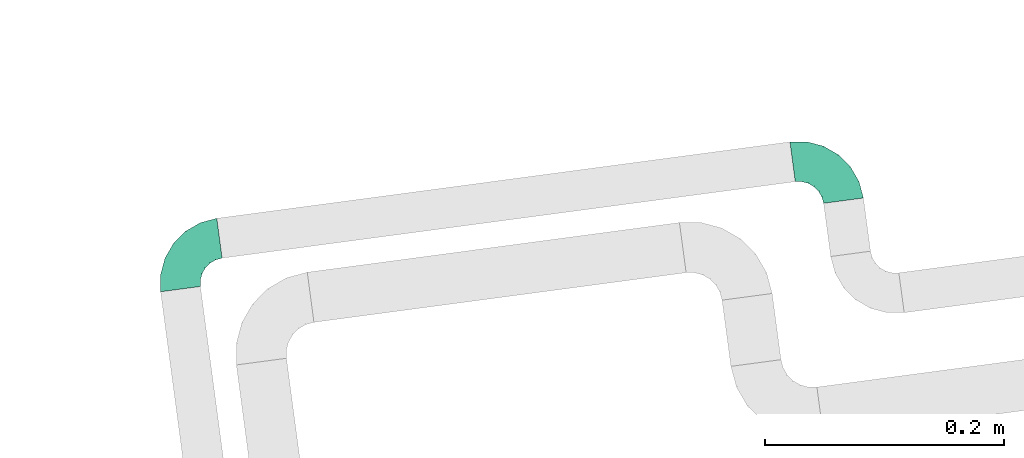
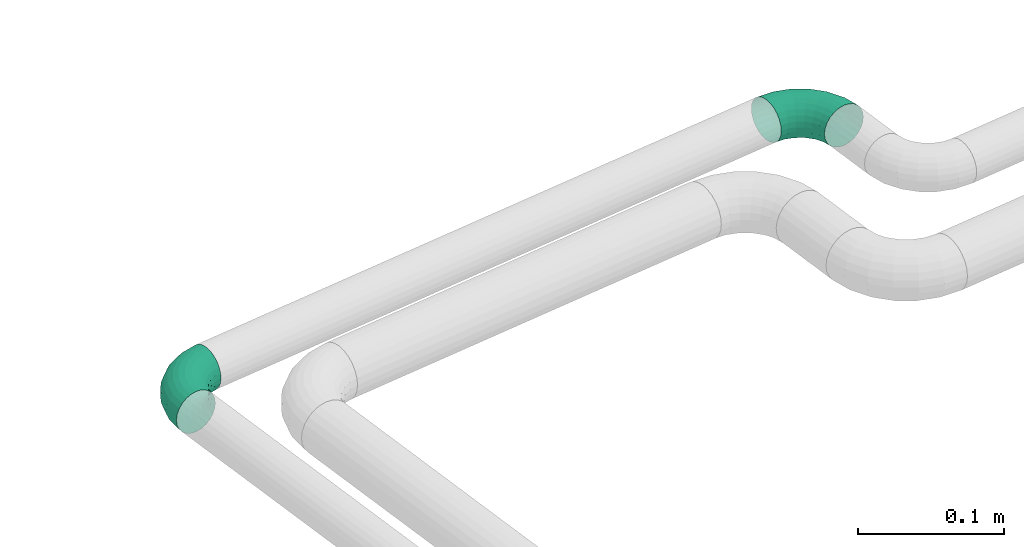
# One storey, part 359 of 374: 2 flow segments.
"""IFC2X3 building model written with IfcOpenShell, lengths in metres."""

import ifcopenshell
import ifcopenshell.guid

model = None  # the IFC model being written
_history = None  # IfcOwnerHistory: only IFC2X3 demands one
_inside = {}  # id of a spatial element -> (the spatial element, [elements in it])
_under = {}  # id of a project, library or spatial element -> (it, [spatial elements below it])
_declared = {}  # id of a project -> (the project, [libraries it declares])
_typed = {}  # id of a type object -> (the type object, [elements of that type])
_made_of = {}  # id of a material, layer set ... -> (it, [elements and type objects made of it])


def new_model(schema):
    """Start an empty IFC model of exactly this schema.

    Asked for "IFC4X3", IfcOpenShell would pick the latest addendum, in which some entities
    have other attributes; the version numbers below select the first issue.
    IFC2X3 requires an IfcOwnerHistory on every rooted entity: one is made here for all.
    """
    global model, _history
    if schema == "IFC4X3":
        model = ifcopenshell.file(schema_version=(4, 3, 0, 0))
    else:
        model = ifcopenshell.file(schema=schema)
    _inside.clear()
    _under.clear()
    _declared.clear()
    _typed.clear()
    _made_of.clear()
    _history = None
    if model.schema == "IFC2X3":
        org = make("IfcOrganization", Name="unknown")
        user = make(
            "IfcPersonAndOrganization",
            ThePerson=make("IfcPerson", FamilyName="unknown"),
            TheOrganization=org,
        )
        app = make(
            "IfcApplication",
            ApplicationDeveloper=org,
            Version="unknown",
            ApplicationFullName="unknown",
            ApplicationIdentifier="unknown",
        )
        _history = make(
            "IfcOwnerHistory",
            OwningUser=user,
            OwningApplication=app,
            ChangeAction="ADDED",
            CreationDate=0,
        )
    return model


def make(cls, **values):
    """One entity of the class cls with the attributes given. An attribute that is None is left unset."""
    return model.create_entity(
        cls, **{name: value for name, value in values.items() if value is not None}
    )


def rooted(cls, **values):
    """An entity with a GlobalId (a new one), such as an element, a storey or a relation."""
    return make(cls, GlobalId=ifcopenshell.guid.new(), OwnerHistory=_history, **values)


def si_unit(unit_type, name, prefix=None):
    """IfcSIUnit, for example si_unit("LENGTHUNIT", "METRE", prefix="MILLI")."""
    return make("IfcSIUnit", UnitType=unit_type, Prefix=prefix, Name=name)


def assignment(units):
    """IfcUnitAssignment: the units of a project."""
    return None if units is None else make("IfcUnitAssignment", Units=units)


def point(xyz):
    """IfcCartesianPoint."""
    return None if xyz is None else make("IfcCartesianPoint", Coordinates=xyz)


def direction(xyz):
    """IfcDirection."""
    return None if xyz is None else make("IfcDirection", DirectionRatios=xyz)


def frame(location, z_axis=None, x_axis=None):
    """IfcAxis2Placement3D, a coordinate frame: its origin and axes. An axis left out is left unset."""
    return make(
        "IfcAxis2Placement3D",
        Location=point(location),
        Axis=direction(z_axis),
        RefDirection=direction(x_axis),
    )


def origin():
    """The frame at (0, 0, 0) with its axes left unset."""
    return frame((0.0, 0.0, 0.0))


def place(relative_to, where):
    """IfcLocalPlacement: puts the frame where relative to a parent placement (None: the world)."""
    return make(
        "IfcLocalPlacement", PlacementRelTo=relative_to, RelativePlacement=where
    )


def context(
    kind, dimensions, precision=None, world=None, true_north=None, identifier=None
):
    """IfcGeometricRepresentationContext, for example the 3D "Model" context."""
    return make(
        "IfcGeometricRepresentationContext",
        ContextIdentifier=identifier,
        ContextType=kind,
        CoordinateSpaceDimension=dimensions,
        Precision=precision,
        WorldCoordinateSystem=world,
        TrueNorth=true_north,
    )


def subcontext(parent, identifier, kind, view, scale=None):
    """IfcGeometricRepresentationSubContext, for example "Body" below "Model"."""
    return make(
        "IfcGeometricRepresentationSubContext",
        ContextIdentifier=identifier,
        ContextType=kind,
        ParentContext=parent,
        TargetScale=scale,
        TargetView=view,
    )


def project(units=None, contexts=None):
    """IfcProject with its units and contexts."""
    return rooted(
        "IfcProject",
        Name="project",
        RepresentationContexts=contexts,
        UnitsInContext=assignment(units),
    )


def spatial(cls, under=None, at=None, **own):
    """A site, building, storey or space (cls), placed at a placement, below another one or the project."""
    s = rooted(cls, ObjectPlacement=at, **own)
    if under is not None:
        _under.setdefault(under.id(), (under, []))[1].append(s)
    return s


def faces_of(points, faces, orient=None, outer=None):
    """IfcFace entities. A face is a list of loops; a loop is a list of indices into points, from 0.

    orient and outer hold one flag for each loop. By default every Orientation is true, the
    first loop of a face is its IfcFaceOuterBound and the others are IfcFaceBound.
    """
    made = []
    for i, loops in enumerate(faces):
        bounds = []
        for j, loop in enumerate(loops):
            is_outer = j == 0 if outer is None else outer[i][j]
            bounds.append(
                make(
                    "IfcFaceOuterBound" if is_outer else "IfcFaceBound",
                    Bound=make("IfcPolyLoop", Polygon=[points[k] for k in loop]),
                    Orientation=True if orient is None else orient[i][j],
                )
            )
        made.append(make("IfcFace", Bounds=bounds))
    return made


def open_shell(faces, orient=None, outer=None):
    """The faces of one IfcOpenShell. surface_model builds it on its shared points."""
    return ("IfcOpenShell", faces, orient, outer)


def surface_model(cls, points, shells):
    """IfcFaceBasedSurfaceModel or IfcShellBasedSurfaceModel (cls): surfaces that need not close."""
    shared = [point(p) for p in points]
    made = [make(c, CfsFaces=faces_of(shared, fs, o, b)) for c, fs, o, b in shells]
    if cls == "IfcFaceBasedSurfaceModel":
        return make(cls, FbsmFaces=made)
    return make(cls, SbsmBoundary=made)


def shape(context_of_items, identifier, shape_type, items):
    """IfcShapeRepresentation: the items that make up one representation, for example the "Body"."""
    return make(
        "IfcShapeRepresentation",
        ContextOfItems=context_of_items,
        RepresentationIdentifier=identifier,
        RepresentationType=shape_type,
        Items=items,
    )


def source(mapping_origin, context_of_items, identifier, shape_type, items):
    """IfcRepresentationMap: a shape defined once, which mapped items show again and again."""
    return make(
        "IfcRepresentationMap",
        MappingOrigin=mapping_origin,
        MappedRepresentation=shape(context_of_items, identifier, shape_type, items),
    )


def transform(
    local_origin,
    x_axis=None,
    y_axis=None,
    z_axis=None,
    scale=None,
    scale2=None,
    scale3=None,
    uniform=True,
):
    """IfcCartesianTransformationOperator3D, or its non-uniform kind. x_axis, y_axis, z_axis: its Axis1, 2, 3."""
    if uniform:
        return make(
            "IfcCartesianTransformationOperator3D",
            Axis1=direction(x_axis),
            Axis2=direction(y_axis),
            LocalOrigin=point(local_origin),
            Scale=scale,
            Axis3=direction(z_axis),
        )
    return make(
        "IfcCartesianTransformationOperator3DnonUniform",
        Axis1=direction(x_axis),
        Axis2=direction(y_axis),
        LocalOrigin=point(local_origin),
        Scale=scale,
        Axis3=direction(z_axis),
        Scale2=scale2,
        Scale3=scale3,
    )


def mapped(mapping_source, mapping_target):
    """IfcMappedItem: shows the shape of a source again, moved by a transform."""
    return make(
        "IfcMappedItem", MappingSource=mapping_source, MappingTarget=mapping_target
    )


def made_of(thing, what):
    """Note that an element or type object is made of a material, layer set ...; save() writes the relation."""
    if what is not None:
        _made_of.setdefault(what.id(), (what, []))[1].append(thing)
    return thing


def element(
    cls,
    number,
    at=None,
    inside=None,
    cuts=None,
    type_object=None,
    material=None,
    context=None,
    identifier="Body",
    shape_type=None,
    held_by="IfcProductDefinitionShape",
    body=None,
    shapes=None,
    **own,
):
    """One element of the class cls, such as IfcWall. Its Tag is "e" and its number.

    at: its placement. inside: the storey or other place that contains it. cuts: it is an
    opening in that element (IfcRelVoidsElement). A single representation is given by context,
    identifier, shape_type and body (its items); several are given by shapes. held_by: the class
    of the entity that holds the representations. save() writes the other relations.
    """
    e = rooted(cls, Tag="e%d" % number, ObjectPlacement=at, **own)
    if body is not None:
        shapes = [shape(context, identifier, shape_type, body)]
    if shapes is not None:
        e.Representation = make(held_by, Representations=shapes)
    if inside is not None:
        _inside.setdefault(inside.id(), (inside, []))[1].append(e)
    if cuts is not None:
        rooted(
            "IfcRelVoidsElement", RelatingBuildingElement=cuts, RelatedOpeningElement=e
        )
    if type_object is not None:
        _typed.setdefault(type_object.id(), (type_object, []))[1].append(e)
    return made_of(e, material)


def aggregate(whole, parts):
    """IfcRelAggregates: a whole, such as a stair, and the parts it consists of."""
    return rooted("IfcRelAggregates", RelatingObject=whole, RelatedObjects=parts)


def save(model, path):
    """Write the relations noted so far, then the file.

    IfcRelAggregates (storeys below a building ...), IfcRelContainedInSpatialStructure (elements
    in a storey), IfcRelDefinesByType, IfcRelAssociatesMaterial and IfcRelDeclares: one each for
    every whole, place, type object, material and project.
    """
    for whole, parts in _under.values():
        aggregate(whole, parts)
    for where, things in _inside.values():
        rooted(
            "IfcRelContainedInSpatialStructure",
            RelatedElements=things,
            RelatingStructure=where,
        )
    for kind, things in _typed.values():
        rooted("IfcRelDefinesByType", RelatedObjects=things, RelatingType=kind)
    for what, things in _made_of.values():
        rooted("IfcRelAssociatesMaterial", RelatedObjects=things, RelatingMaterial=what)
    for by, libraries in _declared.values():
        rooted("IfcRelDeclares", RelatingContext=by, RelatedDefinitions=libraries)
    model.write(path)


model = new_model("IFC2X3")

# Units and contexts
model_context = context("Model", 3, precision=1e-05, world=origin(), true_north=direction((-0.4480736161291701, 0.8939966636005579)))
body_context = subcontext(model_context, "Body", "Model", "MODEL_VIEW")
ifc_project = project(units=[si_unit("LENGTHUNIT", "METRE"), si_unit("AREAUNIT", "SQUARE_METRE"), si_unit("VOLUMEUNIT", "CUBIC_METRE"), si_unit("PLANEANGLEUNIT", "RADIAN"), si_unit("THERMODYNAMICTEMPERATUREUNIT", "KELVIN"), si_unit("MASSUNIT", "GRAM", prefix="KILO"), si_unit("TIMEUNIT", "SECOND")], contexts=[model_context])

# Site, building, storey
site_placement = place(None, origin())
site = spatial("IfcSite", under=ifc_project, at=site_placement, Name="Site 1", CompositionType="ELEMENT")
building_placement = place(site_placement, origin())
building = spatial("IfcBuilding", under=site, at=building_placement, Name="Undefined", CompositionType="ELEMENT")
storey_placement = place(building_placement, origin())
storey = spatial("IfcBuildingStorey", under=building, at=storey_placement, Name="Rez de chauss\x8ee", CompositionType="ELEMENT", Elevation=0.0)

# Flow segments
shared_shape_1 = source(origin(), body_context, "Body", "SurfaceModel", [
    surface_model("IfcFaceBasedSurfaceModel", [(0.014318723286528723, 0.0, 8.8817842e-16), (0.01424378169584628, 0.004398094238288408, 0.0), (7.494159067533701e-05, 0.004398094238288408, 8.8817842e-16), (0.0, 0.0, 0.0), (-0.013611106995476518, 0.004872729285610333, -0.0036363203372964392), (-0.01383082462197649, 0.000479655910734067, -0.003674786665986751), (-0.02588168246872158, 0.005789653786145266, -0.010661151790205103), (-0.026231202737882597, 0.0014062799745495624, -0.010773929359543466), (-0.03590056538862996, 0.007086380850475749, -0.02059576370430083), (-0.036356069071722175, 0.0027167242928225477, -0.020813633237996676), (-0.04298498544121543, 0.008674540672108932, -0.03276312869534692), (-0.0435154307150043, 0.0043216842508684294, -0.03310970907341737), (-0.046652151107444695, 0.010445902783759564, -0.04633406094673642), (-0.04722138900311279, 0.006111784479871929, -0.04682419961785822), (0.01402406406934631, 0.008643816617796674, -0.00112889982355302), (0.0002946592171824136, 0.00864381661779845, -0.001128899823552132), (-0.01296692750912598, 0.009103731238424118, -0.00465244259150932), (-0.02485694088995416, 0.009992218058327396, -0.011459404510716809), (-0.03456509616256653, 0.011248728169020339, -0.021085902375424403), (-0.041429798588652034, 0.012787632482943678, -0.03287590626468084), (-0.04498323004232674, 0.014504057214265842, -0.04602594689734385), (0.013674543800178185, 0.012447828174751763, -0.0033097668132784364), (0.0006441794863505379, 0.012447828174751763, -0.003309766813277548), (-0.011942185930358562, 0.012884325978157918, -0.006653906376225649), (-0.023226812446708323, 0.013727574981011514, -0.01311428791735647), (-0.032440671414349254, 0.014920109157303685, -0.022250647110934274), (-0.038955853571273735, 0.016380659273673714, -0.03344035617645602), (-0.04232836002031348, 0.01800969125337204, -0.04592085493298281), (0.013219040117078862, 0.01555089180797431, -0.006393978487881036), (0.0010996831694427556, 0.015550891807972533, -0.006393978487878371), (-0.010606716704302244, 0.015956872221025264, -0.009504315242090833), (-0.021102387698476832, 0.016741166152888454, -0.01551302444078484), (-0.029672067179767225, 0.01785032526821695, -0.024010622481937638), (-0.035731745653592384, 0.01920876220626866, -0.03441801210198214), (-0.038868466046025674, 0.02072390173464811, -0.04602594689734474), (0.012688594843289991, 0.01774153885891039, -0.010171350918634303), (0.0016301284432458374, 0.01774153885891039, -0.010171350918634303), (-0.009051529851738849, 0.018111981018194, -0.013009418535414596), (-0.01862844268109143, 0.01882762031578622, -0.018492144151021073), (-0.026447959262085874, 0.019839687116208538, -0.02624588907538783), (-0.03197719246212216, 0.021079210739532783, -0.03574224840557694), (-0.034839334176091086, 0.022461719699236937, -0.04633406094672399), (0.012119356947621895, 0.018870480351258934, -0.014384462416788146), (0.0021993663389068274, 0.018870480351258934, -0.014384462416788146), (-0.007382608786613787, 0.019202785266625, -0.016930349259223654), (-0.015973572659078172, 0.019844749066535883, -0.021848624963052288), (-0.022988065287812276, 0.020752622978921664, -0.02880411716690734), (-0.027948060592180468, 0.021864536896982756, -0.03732282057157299), (-0.030515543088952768, 0.023104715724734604, -0.04682419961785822), (0.0115501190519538, 0.018860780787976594, -0.01874619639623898), (0.002768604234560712, 0.018860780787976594, -0.01874619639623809), (-0.005713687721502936, 0.019154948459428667, -0.020999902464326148), (-0.013318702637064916, 0.01972323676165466, -0.025353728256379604), (-0.019528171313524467, 0.02052691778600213, -0.03151096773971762), (-0.023918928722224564, 0.021511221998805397, -0.03905201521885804), (-0.02619175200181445, 0.02260907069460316, -0.04746296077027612), (0.011019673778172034, 0.01771310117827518, -0.022959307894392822), (0.0032990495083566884, 0.01771310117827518, -0.022959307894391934), (-0.004158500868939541, 0.017971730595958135, -0.0249407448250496), (-0.010844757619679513, 0.018471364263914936, -0.028768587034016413), (-0.01630406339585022, 0.019177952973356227, -0.03418197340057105), (-0.020164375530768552, 0.0200433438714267, -0.04081199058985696), (-0.022162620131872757, 0.02100856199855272, -0.04820681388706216), (0.010564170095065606, 0.015505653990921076, -0.02673668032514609), (0.0037545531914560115, 0.015505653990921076, -0.0267366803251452), (-0.002823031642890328, 0.01573376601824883, -0.028484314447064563), (-0.008720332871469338, 0.016174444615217, -0.03186048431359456), (-0.01353545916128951, 0.016797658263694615, -0.036635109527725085), (-0.016940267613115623, 0.017560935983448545, -0.042482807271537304), (-0.018702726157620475, 0.01841226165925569, -0.04900506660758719), (0.010214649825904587, 0.012388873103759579, -0.029820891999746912), (0.004104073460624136, 0.012388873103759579, -0.029820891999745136), (-0.0017982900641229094, 0.012593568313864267, -0.03138912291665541), (-0.007090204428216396, 0.012989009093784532, -0.03441871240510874), (-0.011411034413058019, 0.013548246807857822, -0.0387031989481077), (-0.014466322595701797, 0.014233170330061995, -0.04395060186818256), (-0.01604785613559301, 0.014997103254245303, -0.0498033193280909), (0.009994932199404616, 0.008575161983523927, -0.03200175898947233), (0.004323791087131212, 0.00857516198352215, -0.03200175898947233), (-0.001154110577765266, 0.00876513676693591, -0.03345721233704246), (-0.006065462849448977, 0.009132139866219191, -0.03626893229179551), (-0.0100755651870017, 0.009651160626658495, -0.04024530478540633), (-0.012911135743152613, 0.010286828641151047, -0.04511534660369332), (-0.014378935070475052, 0.010995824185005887, -0.05054717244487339), (0.009919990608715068, 0.004324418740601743, -0.03313065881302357), (0.004398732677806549, 0.004324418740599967, -0.03313065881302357), (-0.0009343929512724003, 0.004509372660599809, -0.03454764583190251), (-0.005715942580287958, 0.004866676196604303, -0.03728505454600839), (-0.009620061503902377, 0.005371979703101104, -0.041156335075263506), (-0.012380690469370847, 0.005990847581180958, -0.04589766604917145), (-0.013809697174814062, 0.006681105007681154, -0.05118593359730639), (0.009994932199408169, -7.367549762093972e-05, -0.033130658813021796), (0.004323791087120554, -7.367549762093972e-05, -0.03313065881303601), (-0.0011541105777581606, 0.00011629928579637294, -0.03458611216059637), (-0.006065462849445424, 0.0004833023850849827, -0.037397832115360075), (-0.010075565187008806, 0.0010023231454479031, -0.04137420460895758), (-0.012911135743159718, 0.001637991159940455, -0.04624424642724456), (-0.014378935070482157, 0.002346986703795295, -0.05167607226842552), (0.010214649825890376, -0.004319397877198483, -0.03200175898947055), (0.00410407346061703, -0.0043193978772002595, -0.03200175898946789), (-0.0017982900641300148, -0.004114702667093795, -0.03356998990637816), (-0.007090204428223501, -0.0037192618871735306, -0.036599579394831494), (-0.011411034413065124, -0.00316002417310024, -0.04088406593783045), (-0.014466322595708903, -0.002475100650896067, -0.04613146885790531), (-0.016047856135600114, -0.0017111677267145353, -0.05198418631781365), (0.0105641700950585, -0.008123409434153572, -0.029820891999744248), (0.003754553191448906, -0.008123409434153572, -0.02982089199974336), (-0.0028230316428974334, -0.007895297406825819, -0.03156852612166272), (-0.008720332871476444, -0.007454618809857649, -0.03494469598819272), (-0.013535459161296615, -0.006831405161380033, -0.03971932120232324), (-0.016940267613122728, -0.006068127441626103, -0.04556701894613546), (-0.01870272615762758, -0.005216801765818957, -0.05208927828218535), (0.011019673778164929, -0.011226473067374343, -0.026736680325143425), (0.003299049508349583, -0.011226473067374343, -0.026736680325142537), (-0.004158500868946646, -0.010967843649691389, -0.028718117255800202), (-0.010844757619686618, -0.010468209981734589, -0.032545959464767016), (-0.016304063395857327, -0.009761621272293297, -0.037959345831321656), (-0.020164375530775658, -0.008896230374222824, -0.044589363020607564), (-0.022162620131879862, -0.007931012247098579, -0.051984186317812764), (0.011550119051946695, -0.013417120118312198, -0.02295930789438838), (0.0027686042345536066, -0.013417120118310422, -0.022959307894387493), (-0.005713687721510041, -0.013122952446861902, -0.02521301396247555), (-0.013318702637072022, -0.012554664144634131, -0.029566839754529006), (-0.019528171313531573, -0.011750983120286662, -0.035724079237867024), (-0.02391892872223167, -0.010766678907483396, -0.04326512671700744), (-0.026191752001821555, -0.009668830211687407, -0.05167607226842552), (0.01211935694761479, -0.014546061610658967, -0.018746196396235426), (0.002199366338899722, -0.014546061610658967, -0.018746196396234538), (-0.007382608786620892, -0.0142137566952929, -0.021292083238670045), (-0.015973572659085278, -0.013571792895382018, -0.02621035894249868), (-0.02298806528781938, -0.012663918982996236, -0.03316585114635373), (-0.027948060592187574, -0.011552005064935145, -0.04168455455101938), (-0.030515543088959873, -0.010311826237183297, -0.05118593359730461), (0.012688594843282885, -0.014536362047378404, -0.014384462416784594), (0.001630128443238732, -0.014536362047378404, -0.014384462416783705), (-0.009051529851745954, -0.014165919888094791, -0.017222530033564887), (-0.018628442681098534, -0.013450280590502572, -0.022705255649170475), (-0.02644795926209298, -0.012438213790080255, -0.03045900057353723), (-0.03197719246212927, -0.011198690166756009, -0.03995535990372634), (-0.03483933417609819, -0.009816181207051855, -0.05054717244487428), (0.013219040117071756, -0.013388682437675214, -0.010171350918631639), (0.0010996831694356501, -0.01338868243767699, -0.010171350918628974), (-0.010606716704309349, -0.01298270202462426, -0.013281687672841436), (-0.021102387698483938, -0.01219840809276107, -0.019290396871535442), (-0.02967206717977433, -0.011089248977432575, -0.02778799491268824), (-0.03573174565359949, -0.009730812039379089, -0.038195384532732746), (-0.03886846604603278, -0.008215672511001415, -0.04980331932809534), (0.01367454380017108, -0.011181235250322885, -0.006393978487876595), (0.0006441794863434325, -0.011181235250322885, -0.006393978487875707), (-0.011942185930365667, -0.01074473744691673, -0.009738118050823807), (-0.023226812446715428, -0.009901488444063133, -0.01619849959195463), (-0.03244067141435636, -0.008708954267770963, -0.02533485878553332), (-0.03895585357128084, -0.007248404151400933, -0.03652456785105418), (-0.04232836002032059, -0.005619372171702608, -0.04900506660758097), (0.014024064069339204, -0.008064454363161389, -0.003309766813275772), (0.0002946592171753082, -0.008064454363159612, -0.0033097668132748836), (-0.012966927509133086, -0.0076045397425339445, -0.006833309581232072), (-0.024856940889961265, -0.0067160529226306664, -0.01364027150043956), (-0.03456509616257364, -0.005459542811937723, -0.023266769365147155), (-0.04142979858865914, -0.003920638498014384, -0.03505677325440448), (-0.044983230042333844, -0.00220421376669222, -0.0482068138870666), (0.014243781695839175, -0.004250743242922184, -0.0011288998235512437), (7.494159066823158e-05, -0.004250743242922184, -0.0011288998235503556), (-0.013611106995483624, -0.0037761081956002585, -0.004765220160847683), (-0.025881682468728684, -0.002859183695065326, -0.011790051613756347), (-0.03590056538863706, -0.001562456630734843, -0.021724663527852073), (-0.042984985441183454, 2.5703190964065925e-05, -0.03389202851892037), (-0.0466521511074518, 0.0017970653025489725, -0.047462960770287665)], [open_shell([[[0, 1, 2, 3]], [[3, 2, 4, 5]], [[5, 4, 6, 7]], [[7, 6, 8, 9]], [[9, 8, 10, 11]], [[11, 10, 12, 13]], [[1, 14, 15, 2]], [[2, 15, 16, 4]], [[4, 16, 17, 6]], [[6, 17, 18, 8]], [[8, 18, 19, 10]], [[10, 19, 20, 12]], [[14, 21, 22, 15]], [[15, 22, 23, 16]], [[16, 23, 24, 17]], [[17, 24, 25, 18]], [[18, 25, 26, 19]], [[19, 26, 27, 20]], [[21, 28, 29, 22]], [[22, 29, 30, 23]], [[23, 30, 31, 24]], [[24, 31, 32, 25]], [[25, 32, 33, 26]], [[26, 33, 34, 27]], [[28, 35, 36, 29]], [[29, 36, 37, 30]], [[30, 37, 38, 31]], [[31, 38, 39, 32]], [[32, 39, 40, 33]], [[33, 40, 41, 34]], [[35, 42, 43, 36]], [[36, 43, 44, 37]], [[37, 44, 45, 38]], [[38, 45, 46, 39]], [[39, 46, 47, 40]], [[40, 47, 48, 41]], [[42, 49, 50, 43]], [[43, 50, 51, 44]], [[44, 51, 52, 45]], [[45, 52, 53, 46]], [[46, 53, 54, 47]], [[47, 54, 55, 48]], [[49, 56, 57, 50]], [[50, 57, 58, 51]], [[51, 58, 59, 52]], [[52, 59, 60, 53]], [[53, 60, 61, 54]], [[54, 61, 62, 55]], [[56, 63, 64, 57]], [[57, 64, 65, 58]], [[58, 65, 66, 59]], [[59, 66, 67, 60]], [[60, 67, 68, 61]], [[61, 68, 69, 62]], [[63, 70, 71, 64]], [[64, 71, 72, 65]], [[65, 72, 73, 66]], [[66, 73, 74, 67]], [[67, 74, 75, 68]], [[68, 75, 76, 69]], [[70, 77, 78, 71]], [[71, 78, 79, 72]], [[72, 79, 80, 73]], [[73, 80, 81, 74]], [[74, 81, 82, 75]], [[75, 82, 83, 76]], [[77, 84, 85, 78]], [[78, 85, 86, 79]], [[79, 86, 87, 80]], [[80, 87, 88, 81]], [[81, 88, 89, 82]], [[82, 89, 90, 83]], [[84, 91, 92, 85]], [[85, 92, 93, 86]], [[86, 93, 94, 87]], [[87, 94, 95, 88]], [[88, 95, 96, 89]], [[89, 96, 97, 90]], [[91, 98, 99, 92]], [[92, 99, 100, 93]], [[93, 100, 101, 94]], [[94, 101, 102, 95]], [[95, 102, 103, 96]], [[96, 103, 104, 97]], [[98, 105, 106, 99]], [[99, 106, 107, 100]], [[100, 107, 108, 101]], [[101, 108, 109, 102]], [[102, 109, 110, 103]], [[103, 110, 111, 104]], [[105, 112, 113, 106]], [[106, 113, 114, 107]], [[107, 114, 115, 108]], [[108, 115, 116, 109]], [[109, 116, 117, 110]], [[110, 117, 118, 111]], [[112, 119, 120, 113]], [[113, 120, 121, 114]], [[114, 121, 122, 115]], [[115, 122, 123, 116]], [[116, 123, 124, 117]], [[117, 124, 125, 118]], [[119, 126, 127, 120]], [[120, 127, 128, 121]], [[121, 128, 129, 122]], [[122, 129, 130, 123]], [[123, 130, 131, 124]], [[124, 131, 132, 125]], [[126, 133, 134, 127]], [[127, 134, 135, 128]], [[128, 135, 136, 129]], [[129, 136, 137, 130]], [[130, 137, 138, 131]], [[131, 138, 139, 132]], [[133, 140, 141, 134]], [[134, 141, 142, 135]], [[135, 142, 143, 136]], [[136, 143, 144, 137]], [[137, 144, 145, 138]], [[138, 145, 146, 139]], [[140, 147, 148, 141]], [[141, 148, 149, 142]], [[142, 149, 150, 143]], [[143, 150, 151, 144]], [[144, 151, 152, 145]], [[145, 152, 153, 146]], [[147, 154, 155, 148]], [[148, 155, 156, 149]], [[149, 156, 157, 150]], [[150, 157, 158, 151]], [[151, 158, 159, 152]], [[152, 159, 160, 153]], [[154, 161, 162, 155]], [[155, 162, 163, 156]], [[156, 163, 164, 157]], [[157, 164, 165, 158]], [[158, 165, 166, 159]], [[159, 166, 167, 160]], [[161, 0, 3, 162]], [[162, 3, 5, 163]], [[163, 5, 7, 164]], [[164, 7, 9, 165]], [[165, 9, 11, 166]], [[166, 11, 13, 167]]])]),
])
flow_segment_1_placement = place(storey_placement, origin())
element("IfcFlowSegment", 1, at=flow_segment_1_placement, inside=storey, Name="Tube coudé", ObjectType="Tube coudé", context=body_context, shape_type="MappedRepresentation", body=[
    mapped(shared_shape_1, transform((63.8984853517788, 20.254435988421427, 4.0051404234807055), x_axis=(0.2605045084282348, -0.9654726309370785, 0.0), y_axis=(-0.12495948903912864, -0.03371665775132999, -0.9915887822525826), z_axis=(0.9573518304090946, 0.2583133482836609, -0.12942830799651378))),
])
shared_shape_2 = source(origin(), body_context, "Body", "SurfaceModel", [
    surface_model("IfcFaceBasedSurfaceModel", [(0.014318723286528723, 0.0, 8.8817842e-16), (0.01424378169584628, 0.004398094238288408, 0.0), (7.494159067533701e-05, 0.004398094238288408, 8.8817842e-16), (0.0, 0.0, 0.0), (-0.013611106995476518, 0.004872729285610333, -0.0036363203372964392), (-0.01383082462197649, 0.000479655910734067, -0.003674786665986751), (-0.02588168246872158, 0.005789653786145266, -0.010661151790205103), (-0.026231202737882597, 0.0014062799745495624, -0.010773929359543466), (-0.03590056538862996, 0.007086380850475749, -0.02059576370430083), (-0.036356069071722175, 0.0027167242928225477, -0.020813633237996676), (-0.04298498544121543, 0.008674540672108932, -0.03276312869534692), (-0.0435154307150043, 0.0043216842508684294, -0.03310970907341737), (-0.046652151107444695, 0.010445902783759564, -0.04633406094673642), (-0.04722138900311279, 0.006111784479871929, -0.04682419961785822), (0.01402406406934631, 0.008643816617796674, -0.00112889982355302), (0.0002946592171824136, 0.00864381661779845, -0.001128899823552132), (-0.01296692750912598, 0.009103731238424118, -0.00465244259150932), (-0.02485694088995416, 0.009992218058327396, -0.011459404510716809), (-0.03456509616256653, 0.011248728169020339, -0.021085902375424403), (-0.041429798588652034, 0.012787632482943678, -0.03287590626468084), (-0.04498323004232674, 0.014504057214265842, -0.04602594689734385), (0.013674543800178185, 0.012447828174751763, -0.0033097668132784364), (0.0006441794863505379, 0.012447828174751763, -0.003309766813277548), (-0.011942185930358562, 0.012884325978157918, -0.006653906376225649), (-0.023226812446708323, 0.013727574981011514, -0.01311428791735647), (-0.032440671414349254, 0.014920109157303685, -0.022250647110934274), (-0.038955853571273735, 0.016380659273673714, -0.03344035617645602), (-0.04232836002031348, 0.01800969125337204, -0.04592085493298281), (0.013219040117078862, 0.01555089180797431, -0.006393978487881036), (0.0010996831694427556, 0.015550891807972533, -0.006393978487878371), (-0.010606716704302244, 0.015956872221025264, -0.009504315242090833), (-0.021102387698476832, 0.016741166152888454, -0.01551302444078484), (-0.029672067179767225, 0.01785032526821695, -0.024010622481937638), (-0.035731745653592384, 0.01920876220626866, -0.03441801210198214), (-0.038868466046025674, 0.02072390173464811, -0.04602594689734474), (0.012688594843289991, 0.01774153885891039, -0.010171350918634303), (0.0016301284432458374, 0.01774153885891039, -0.010171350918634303), (-0.009051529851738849, 0.018111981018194, -0.013009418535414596), (-0.01862844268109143, 0.01882762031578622, -0.018492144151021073), (-0.026447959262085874, 0.019839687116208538, -0.02624588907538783), (-0.03197719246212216, 0.021079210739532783, -0.03574224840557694), (-0.034839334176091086, 0.022461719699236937, -0.04633406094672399), (0.012119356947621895, 0.018870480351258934, -0.014384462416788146), (0.0021993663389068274, 0.018870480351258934, -0.014384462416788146), (-0.007382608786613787, 0.019202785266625, -0.016930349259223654), (-0.015973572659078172, 0.019844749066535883, -0.021848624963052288), (-0.022988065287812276, 0.020752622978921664, -0.02880411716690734), (-0.027948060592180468, 0.021864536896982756, -0.03732282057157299), (-0.030515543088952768, 0.023104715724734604, -0.04682419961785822), (0.0115501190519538, 0.018860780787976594, -0.01874619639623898), (0.002768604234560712, 0.018860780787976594, -0.01874619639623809), (-0.005713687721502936, 0.019154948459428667, -0.020999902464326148), (-0.013318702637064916, 0.01972323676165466, -0.025353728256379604), (-0.019528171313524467, 0.02052691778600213, -0.03151096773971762), (-0.023918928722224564, 0.021511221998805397, -0.03905201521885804), (-0.02619175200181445, 0.02260907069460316, -0.04746296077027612), (0.011019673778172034, 0.01771310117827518, -0.022959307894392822), (0.0032990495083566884, 0.01771310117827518, -0.022959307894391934), (-0.004158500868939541, 0.017971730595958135, -0.0249407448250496), (-0.010844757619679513, 0.018471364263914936, -0.028768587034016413), (-0.01630406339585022, 0.019177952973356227, -0.03418197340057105), (-0.020164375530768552, 0.0200433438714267, -0.04081199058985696), (-0.022162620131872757, 0.02100856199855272, -0.04820681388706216), (0.010564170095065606, 0.015505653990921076, -0.02673668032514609), (0.0037545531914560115, 0.015505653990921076, -0.0267366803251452), (-0.002823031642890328, 0.01573376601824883, -0.028484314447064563), (-0.008720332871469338, 0.016174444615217, -0.03186048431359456), (-0.01353545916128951, 0.016797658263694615, -0.036635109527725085), (-0.016940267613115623, 0.017560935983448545, -0.042482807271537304), (-0.018702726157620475, 0.01841226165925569, -0.04900506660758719), (0.010214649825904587, 0.012388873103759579, -0.029820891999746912), (0.004104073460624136, 0.012388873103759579, -0.029820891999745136), (-0.0017982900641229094, 0.012593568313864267, -0.03138912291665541), (-0.007090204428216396, 0.012989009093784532, -0.03441871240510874), (-0.011411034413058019, 0.013548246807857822, -0.0387031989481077), (-0.014466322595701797, 0.014233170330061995, -0.04395060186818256), (-0.01604785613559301, 0.014997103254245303, -0.0498033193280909), (0.009994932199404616, 0.008575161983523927, -0.03200175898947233), (0.004323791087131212, 0.00857516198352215, -0.03200175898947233), (-0.001154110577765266, 0.00876513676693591, -0.03345721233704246), (-0.006065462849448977, 0.009132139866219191, -0.03626893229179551), (-0.0100755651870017, 0.009651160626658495, -0.04024530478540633), (-0.012911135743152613, 0.010286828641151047, -0.04511534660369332), (-0.014378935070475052, 0.010995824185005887, -0.05054717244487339), (0.009919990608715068, 0.004324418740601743, -0.03313065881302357), (0.004398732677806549, 0.004324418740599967, -0.03313065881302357), (-0.0009343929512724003, 0.004509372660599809, -0.03454764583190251), (-0.005715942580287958, 0.004866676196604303, -0.03728505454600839), (-0.009620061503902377, 0.005371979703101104, -0.041156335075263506), (-0.012380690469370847, 0.005990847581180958, -0.04589766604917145), (-0.013809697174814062, 0.006681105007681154, -0.05118593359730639), (0.009994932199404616, -7.367549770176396e-05, -0.033130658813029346), (0.0043237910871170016, -7.367549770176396e-05, -0.03313065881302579), (-0.0011541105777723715, 0.00011629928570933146, -0.03458611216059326), (-0.0060654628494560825, 0.00048330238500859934, -0.03739783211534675), (-0.010075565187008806, 0.0010023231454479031, -0.04137420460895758), (-0.012911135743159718, 0.001637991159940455, -0.04624424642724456), (-0.014378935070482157, 0.002346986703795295, -0.05167607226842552), (0.010214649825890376, -0.004319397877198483, -0.03200175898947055), (0.00410407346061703, -0.0043193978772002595, -0.03200175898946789), (-0.0017982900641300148, -0.004114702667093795, -0.03356998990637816), (-0.007090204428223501, -0.0037192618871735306, -0.036599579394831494), (-0.011411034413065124, -0.00316002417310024, -0.04088406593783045), (-0.014466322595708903, -0.002475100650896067, -0.04613146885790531), (-0.016047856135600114, -0.0017111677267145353, -0.05198418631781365), (0.0105641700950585, -0.008123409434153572, -0.029820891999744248), (0.003754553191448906, -0.008123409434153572, -0.02982089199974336), (-0.0028230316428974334, -0.007895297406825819, -0.03156852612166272), (-0.008720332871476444, -0.007454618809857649, -0.03494469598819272), (-0.013535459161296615, -0.006831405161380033, -0.03971932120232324), (-0.016940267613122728, -0.006068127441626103, -0.04556701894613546), (-0.01870272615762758, -0.005216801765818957, -0.05208927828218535), (0.011019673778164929, -0.011226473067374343, -0.026736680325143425), (0.003299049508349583, -0.011226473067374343, -0.026736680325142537), (-0.004158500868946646, -0.010967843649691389, -0.028718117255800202), (-0.010844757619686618, -0.010468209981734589, -0.032545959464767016), (-0.016304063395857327, -0.009761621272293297, -0.037959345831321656), (-0.020164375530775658, -0.008896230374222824, -0.044589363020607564), (-0.022162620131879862, -0.007931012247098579, -0.051984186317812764), (0.011550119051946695, -0.013417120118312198, -0.02295930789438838), (0.0027686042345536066, -0.013417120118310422, -0.022959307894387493), (-0.005713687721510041, -0.013122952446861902, -0.02521301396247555), (-0.013318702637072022, -0.012554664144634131, -0.029566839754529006), (-0.019528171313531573, -0.011750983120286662, -0.035724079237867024), (-0.02391892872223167, -0.010766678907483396, -0.04326512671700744), (-0.026191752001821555, -0.009668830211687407, -0.05167607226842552), (0.01211935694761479, -0.014546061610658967, -0.018746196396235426), (0.002199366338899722, -0.014546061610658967, -0.018746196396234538), (-0.007382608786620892, -0.0142137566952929, -0.021292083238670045), (-0.015973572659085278, -0.013571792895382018, -0.02621035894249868), (-0.02298806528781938, -0.012663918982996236, -0.03316585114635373), (-0.027948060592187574, -0.011552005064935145, -0.04168455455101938), (-0.030515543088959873, -0.010311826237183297, -0.05118593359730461), (0.012688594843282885, -0.014536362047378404, -0.014384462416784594), (0.001630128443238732, -0.014536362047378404, -0.014384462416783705), (-0.009051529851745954, -0.014165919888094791, -0.017222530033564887), (-0.018628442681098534, -0.013450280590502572, -0.022705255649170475), (-0.02644795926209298, -0.012438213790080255, -0.03045900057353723), (-0.03197719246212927, -0.011198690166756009, -0.03995535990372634), (-0.03483933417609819, -0.009816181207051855, -0.05054717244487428), (0.013219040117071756, -0.013388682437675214, -0.010171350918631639), (0.0010996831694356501, -0.01338868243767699, -0.010171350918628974), (-0.010606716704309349, -0.01298270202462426, -0.013281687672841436), (-0.021102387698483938, -0.01219840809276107, -0.019290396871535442), (-0.02967206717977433, -0.011089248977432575, -0.02778799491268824), (-0.03573174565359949, -0.009730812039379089, -0.038195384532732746), (-0.03886846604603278, -0.008215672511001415, -0.04980331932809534), (0.01367454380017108, -0.011181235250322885, -0.006393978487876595), (0.0006441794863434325, -0.011181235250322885, -0.006393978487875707), (-0.011942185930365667, -0.01074473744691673, -0.009738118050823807), (-0.023226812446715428, -0.009901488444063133, -0.01619849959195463), (-0.03244067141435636, -0.008708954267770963, -0.02533485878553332), (-0.03895585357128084, -0.007248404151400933, -0.03652456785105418), (-0.04232836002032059, -0.005619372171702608, -0.04900506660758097), (0.014024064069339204, -0.008064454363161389, -0.003309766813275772), (0.0002946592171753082, -0.008064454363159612, -0.0033097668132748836), (-0.012966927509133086, -0.0076045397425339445, -0.006833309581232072), (-0.024856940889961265, -0.0067160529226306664, -0.01364027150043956), (-0.03456509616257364, -0.005459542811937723, -0.023266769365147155), (-0.04142979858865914, -0.003920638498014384, -0.03505677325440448), (-0.044983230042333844, -0.00220421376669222, -0.0482068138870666), (0.014243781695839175, -0.004250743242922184, -0.0011288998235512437), (7.494159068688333e-05, -0.004250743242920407, -0.0011288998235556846), (-0.013611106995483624, -0.0037761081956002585, -0.004765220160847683), (-0.025881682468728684, -0.002859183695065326, -0.011790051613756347), (-0.03590056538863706, -0.001562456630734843, -0.021724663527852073), (-0.04298498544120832, 2.5703190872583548e-05, -0.033892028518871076), (-0.0466521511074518, 0.0017970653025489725, -0.047462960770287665), (7.494159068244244e-05, -0.004250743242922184, -0.0011288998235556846)], [open_shell([[[0, 1, 2, 3]], [[3, 2, 4, 5]], [[5, 4, 6, 7]], [[7, 6, 8, 9]], [[9, 8, 10, 11]], [[11, 10, 12, 13]], [[1, 14, 15, 2]], [[2, 15, 16, 4]], [[4, 16, 17, 6]], [[6, 17, 18, 8]], [[8, 18, 19, 10]], [[10, 19, 20, 12]], [[14, 21, 22, 15]], [[15, 22, 23, 16]], [[16, 23, 24, 17]], [[17, 24, 25, 18]], [[18, 25, 26, 19]], [[19, 26, 27, 20]], [[21, 28, 29, 22]], [[22, 29, 30, 23]], [[23, 30, 31, 24]], [[24, 31, 32, 25]], [[25, 32, 33, 26]], [[26, 33, 34, 27]], [[28, 35, 36, 29]], [[29, 36, 37, 30]], [[30, 37, 38, 31]], [[31, 38, 39, 32]], [[32, 39, 40, 33]], [[33, 40, 41, 34]], [[35, 42, 43, 36]], [[36, 43, 44, 37]], [[37, 44, 45, 38]], [[38, 45, 46, 39]], [[39, 46, 47, 40]], [[40, 47, 48, 41]], [[42, 49, 50, 43]], [[43, 50, 51, 44]], [[44, 51, 52, 45]], [[45, 52, 53, 46]], [[46, 53, 54, 47]], [[47, 54, 55, 48]], [[49, 56, 57, 50]], [[50, 57, 58, 51]], [[51, 58, 59, 52]], [[52, 59, 60, 53]], [[53, 60, 61, 54]], [[54, 61, 62, 55]], [[56, 63, 64, 57]], [[57, 64, 65, 58]], [[58, 65, 66, 59]], [[59, 66, 67, 60]], [[60, 67, 68, 61]], [[61, 68, 69, 62]], [[63, 70, 71, 64]], [[64, 71, 72, 65]], [[65, 72, 73, 66]], [[66, 73, 74, 67]], [[67, 74, 75, 68]], [[68, 75, 76, 69]], [[70, 77, 78, 71]], [[71, 78, 79, 72]], [[72, 79, 80, 73]], [[73, 80, 81, 74]], [[74, 81, 82, 75]], [[75, 82, 83, 76]], [[77, 84, 85, 78]], [[78, 85, 86, 79]], [[79, 86, 87, 80]], [[80, 87, 88, 81]], [[81, 88, 89, 82]], [[82, 89, 90, 83]], [[84, 91, 92, 85]], [[85, 92, 93, 86]], [[86, 93, 94, 87]], [[87, 94, 95, 88]], [[88, 95, 96, 89]], [[89, 96, 97, 90]], [[91, 98, 99, 92]], [[92, 99, 100, 93]], [[93, 100, 101, 94]], [[94, 101, 102, 95]], [[95, 102, 103, 96]], [[96, 103, 104, 97]], [[98, 105, 106, 99]], [[99, 106, 107, 100]], [[100, 107, 108, 101]], [[101, 108, 109, 102]], [[102, 109, 110, 103]], [[103, 110, 111, 104]], [[105, 112, 113, 106]], [[106, 113, 114, 107]], [[107, 114, 115, 108]], [[108, 115, 116, 109]], [[109, 116, 117, 110]], [[110, 117, 118, 111]], [[112, 119, 120, 113]], [[113, 120, 121, 114]], [[114, 121, 122, 115]], [[115, 122, 123, 116]], [[116, 123, 124, 117]], [[117, 124, 125, 118]], [[119, 126, 127, 120]], [[120, 127, 128, 121]], [[121, 128, 129, 122]], [[122, 129, 130, 123]], [[123, 130, 131, 124]], [[124, 131, 132, 125]], [[126, 133, 134, 127]], [[127, 134, 135, 128]], [[128, 135, 136, 129]], [[129, 136, 137, 130]], [[130, 137, 138, 131]], [[131, 138, 139, 132]], [[133, 140, 141, 134]], [[134, 141, 142, 135]], [[135, 142, 143, 136]], [[136, 143, 144, 137]], [[137, 144, 145, 138]], [[138, 145, 146, 139]], [[140, 147, 148, 141]], [[141, 148, 149, 142]], [[142, 149, 150, 143]], [[143, 150, 151, 144]], [[144, 151, 152, 145]], [[145, 152, 153, 146]], [[147, 154, 155, 148]], [[148, 155, 156, 149]], [[149, 156, 157, 150]], [[150, 157, 158, 151]], [[151, 158, 159, 152]], [[152, 159, 160, 153]], [[154, 161, 162, 155]], [[155, 162, 163, 156]], [[156, 163, 164, 157]], [[157, 164, 165, 158]], [[158, 165, 166, 159]], [[159, 166, 167, 160]], [[161, 0, 3, 162]], [[168, 3, 5, 163]], [[163, 5, 7, 164]], [[164, 7, 9, 165]], [[165, 9, 11, 166]], [[166, 11, 13, 167]]])]),
])
flow_segment_2_placement = place(storey_placement, origin())
element("IfcFlowSegment", 2, at=flow_segment_2_placement, inside=storey, Name="Tube coudé", ObjectType="Tube coudé", context=body_context, shape_type="MappedRepresentation", body=[
    mapped(shared_shape_2, transform((63.34622578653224, 20.21987736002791, 4.0051404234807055), x_axis=(0.9654726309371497, 0.26050450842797, 0.0), y_axis=(0.03371665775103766, -0.12495948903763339, -0.991588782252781), z_axis=(-0.2583133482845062, 0.957351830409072, -0.129428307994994))),
])

save(model, "model.ifc")
